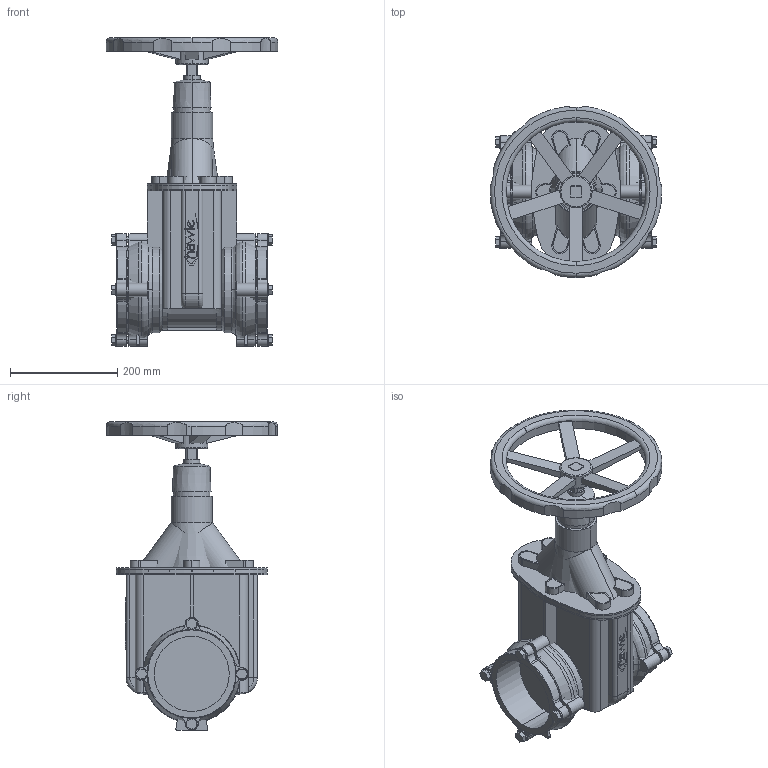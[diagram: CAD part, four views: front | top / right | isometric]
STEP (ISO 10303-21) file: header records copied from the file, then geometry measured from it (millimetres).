
FILE_DESCRIPTION(('STEP AP214'),'1');
FILE_NAME('S:/EK/USER/CAT6/3DHomepage/4040E2/4040E2-PN16-DN100-140-HANDRAD.STP','2012-04-24T11:12:39',(' '),(' '),'Spatial InterOp 3D',' ',' ');
FILE_SCHEMA(('automotive_design'));
Length unit declared in the file: millimetre
Products named in the file (95): 3D-Objekt
Bounding box: 320 x 318.96 x 575 mm (x, y, z)
Volume: 12216250.9 mm3; surface area: 1335882 mm2
Topology: 95 solids, 95 shells, 835 faces, 1901 edges, 1266 vertices
Faces by surface type: plane 459, cylinder 322, torus 36, cone 14, bspline 4
Entity records: 32930 total; most frequent: DIRECTION 4533, CARTESIAN_POINT 4459, ORIENTED_EDGE 3802, EDGE_CURVE 1901, AXIS2_PLACEMENT_3D 1716, VERTEX_POINT 1266, LINE 1101, VECTOR 1101
